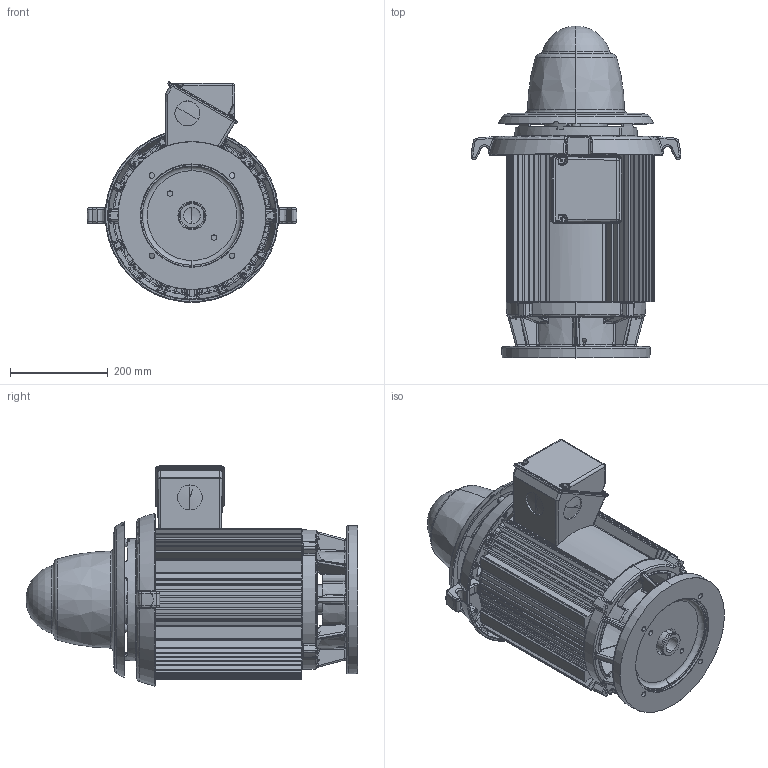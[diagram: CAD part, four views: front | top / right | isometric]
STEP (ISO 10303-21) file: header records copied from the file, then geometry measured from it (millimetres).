
FILE_DESCRIPTION((''),'2;1');
FILE_NAME('250AU_ASSY_ASM','2016-03-31T',('emd2341'),('Nidec Motor Corporation'),'PRO/ENGINEER BY PARAMETRIC TECHNOLOGY CORPORATION, 2013150','PRO/ENGINEER BY PARAMETRIC TECHNOLOGY CORPORATION, 2013150','');
FILE_SCHEMA(('CONFIG_CONTROL_DESIGN'));
Length unit declared in the file: inch
Products named in the file (9): 0380257_AF0; 0396184; 1001456; 0116910; SHAFT; 0396188-CAP; 0364282-OBB; 0364292-CVR; 250AU_ASSY_ASM
Assembly tree (8 placements, depth 2):
  250AU_ASSY_ASM
    0380257_AF0
    0396184
    1001456
    0116910
    SHAFT
    0396188-CAP
    0364282-OBB
    0364292-CVR
Bounding box: 428.26 x 677.75 x 449.97 mm (x, y, z)
Volume: 7494900.9 mm3; surface area: 2495599.2 mm2
Topology: 10 solids, 10 shells, 3325 faces, 8022 edges, 4673 vertices
Faces by surface type: bspline 1131, cylinder 815, plane 622, torus 360, cone 277, sphere 118, extrusion 2
Entity records: 145918 total; most frequent: CARTESIAN_POINT 77581, ORIENTED_EDGE 15934, DIRECTION 12126, EDGE_CURVE 7967, AXIS2_PLACEMENT_3D 5094, VERTEX_POINT 4673, EDGE_LOOP 3452, FACE_OUTER_BOUND 3325
